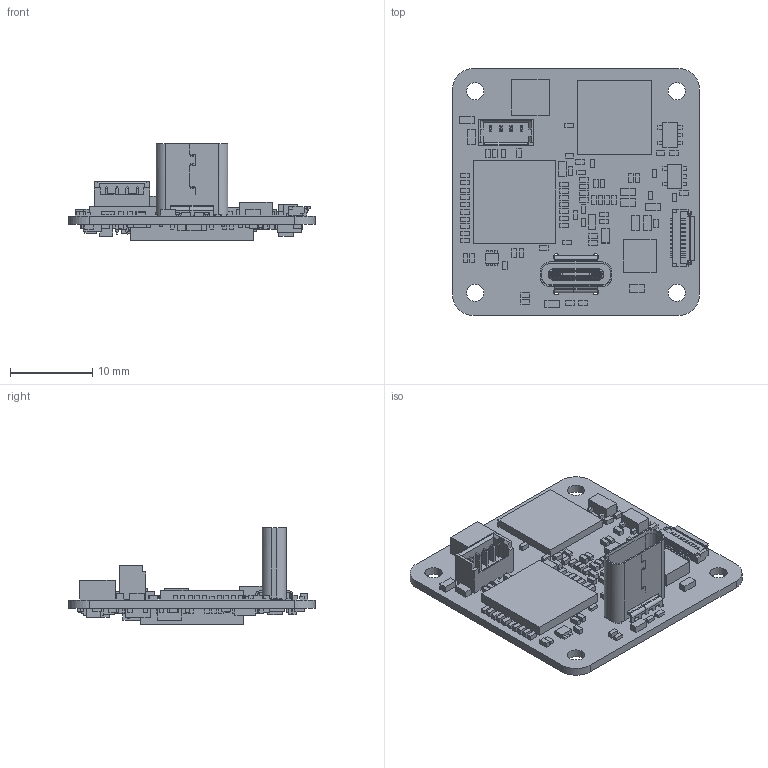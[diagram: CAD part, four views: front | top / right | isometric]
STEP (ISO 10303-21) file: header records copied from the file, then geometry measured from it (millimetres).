
FILE_DESCRIPTION(('Open CASCADE Model'),'2;1');
FILE_NAME('Open CASCADE Shape Model','2017-01-30T12:32:44',('Author'),( 'Open CASCADE'),'Open CASCADE STEP processor 6.8','Open CASCADE 6.8' ,'Unknown');
FILE_SCHEMA(('AUTOMOTIVE_DESIGN { 1 0 10303 214 1 1 1 1 }'));
Products named in the file (1): PCB
Bounding box: 30 x 30.01 x 11.76 mm (x, y, z)
Volume: 1837 mm3; surface area: 4616.7 mm2
Topology: 212 solids, 212 shells, 2745 faces, 6732 edges, 4452 vertices
Faces by surface type: plane 2471, cylinder 254, cone 20
Full cylindrical faces by diameter (mm): 0.5 x4, 0.66 x1, 0.7 x4, 2.1 x4
Entity records: 80814 total; most frequent: CARTESIAN_POINT 14266, ORIENTED_EDGE 13434, DIRECTION 12695, EDGE_CURVE 6717, LINE 6149, VECTOR 6149, VERTEX_POINT 4422, AXIS2_PLACEMENT_3D 3273
